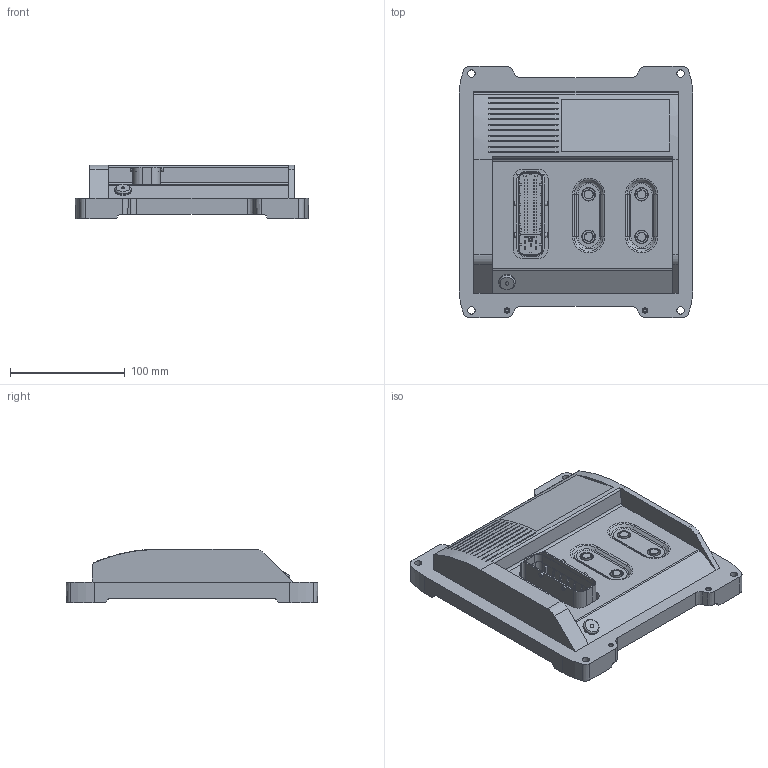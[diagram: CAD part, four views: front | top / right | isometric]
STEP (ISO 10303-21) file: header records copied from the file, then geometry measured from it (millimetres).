
FILE_DESCRIPTION( ( 'STEP AP203' ), '1' );
FILE_NAME( 'p:/temp/worker_33/temp/exporttempdir_3760_799_3jcC2/format_1/CR710S.stp', '2021-10-15T08:13:08', ( 'License CC BY-ND 4.0' ), ( 'CADENAS' ), ' ', 'PARTsolutions', ' ' );
FILE_SCHEMA( ( 'CONFIG_CONTROL_DESIGN' ) );
Length unit declared in the file: millimetre
Products named in the file (1): _CR710S
Bounding box: 203 x 219 x 46.75 mm (x, y, z)
Volume: 987316 mm3; surface area: 137270.7 mm2
Topology: 1 solids, 1 shells, 1042 faces, 2641 edges, 1730 vertices
Faces by surface type: plane 722, cylinder 248, cone 36, torus 32, sphere 4
Full cylindrical faces by diameter (mm): 3.42 x1, 4 x4, 6.4 x4, 6.9 x1, 8 x4, 11 x8, 12.2 x4, 12.9 x1, 14.2 x1, 14.3 x1
Entity records: 31138 total; most frequent: CARTESIAN_POINT 5850, ORIENTED_EDGE 5156, DIRECTION 5102, EDGE_CURVE 2578, LINE 1960, VECTOR 1960, VERTEX_POINT 1729, AXIS2_PLACEMENT_3D 1571
